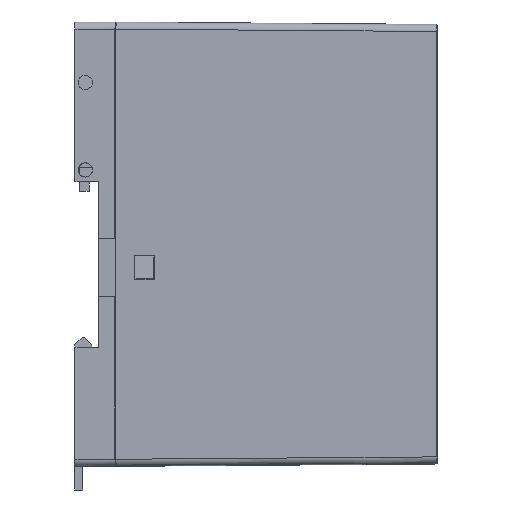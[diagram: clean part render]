
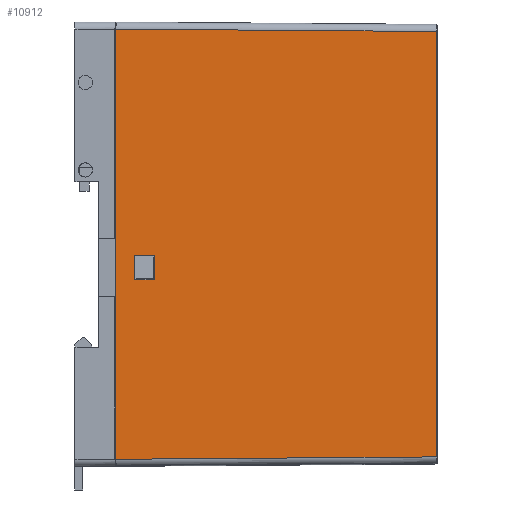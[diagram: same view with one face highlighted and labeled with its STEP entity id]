
A CAD part, front view. The second image highlights one B-rep face of the part: STEP entity #10912.
In plain terms, the highlighted planar face has unit normal (0.007, -1, 0).
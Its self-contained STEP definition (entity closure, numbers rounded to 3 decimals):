
#216=FACE_BOUND('',#1273,.T.);
#641=FACE_OUTER_BOUND('',#1272,.T.);
#1272=EDGE_LOOP('',(#7932,#7933,#7934,#7935));
#1273=EDGE_LOOP('',(#7936,#7937,#7938,#7939));
#2009=LINE('',#15734,#3286);
#2011=LINE('',#15738,#3288);
#2015=LINE('',#15744,#3292);
#2112=LINE('',#15992,#3389);
#2122=LINE('',#16032,#3399);
#2125=LINE('',#16047,#3402);
#2134=LINE('',#16115,#3411);
#2233=LINE('',#16380,#3510);
#3286=VECTOR('',#12693,10.);
#3288=VECTOR('',#12697,10.);
#3292=VECTOR('',#12703,10.);
#3389=VECTOR('',#12936,10.);
#3399=VECTOR('',#12970,10.);
#3402=VECTOR('',#12985,10.);
#3411=VECTOR('',#13036,10.);
#3510=VECTOR('',#13195,10.);
#4493=VERTEX_POINT('',#15731);
#4494=VERTEX_POINT('',#15733);
#4495=VERTEX_POINT('',#15737);
#4496=VERTEX_POINT('',#15742);
#4578=VERTEX_POINT('',#15989);
#4579=VERTEX_POINT('',#15991);
#4596=VERTEX_POINT('',#16029);
#4603=VERTEX_POINT('',#16044);
#5541=EDGE_CURVE('',#4494,#4493,#2009,.F.);
#5543=EDGE_CURVE('',#4495,#4494,#2011,.F.);
#5547=EDGE_CURVE('',#4493,#4496,#2015,.F.);
#5668=EDGE_CURVE('',#4579,#4578,#2112,.T.);
#5688=EDGE_CURVE('',#4596,#4578,#2122,.T.);
#5696=EDGE_CURVE('',#4579,#4603,#2125,.T.);
#5720=EDGE_CURVE('',#4603,#4596,#2134,.T.);
#5831=EDGE_CURVE('',#4496,#4495,#2233,.F.);
#7932=ORIENTED_EDGE('',*,*,#5720,.F.);
#7933=ORIENTED_EDGE('',*,*,#5696,.F.);
#7934=ORIENTED_EDGE('',*,*,#5668,.T.);
#7935=ORIENTED_EDGE('',*,*,#5688,.F.);
#7936=ORIENTED_EDGE('',*,*,#5541,.T.);
#7937=ORIENTED_EDGE('',*,*,#5547,.T.);
#7938=ORIENTED_EDGE('',*,*,#5831,.T.);
#7939=ORIENTED_EDGE('',*,*,#5543,.T.);
#9809=PLANE('',#11606);
#10912=ADVANCED_FACE('',(#641,#216),#9809,.T.);
#11606=AXIS2_PLACEMENT_3D('',#16481,#13359,#13360);
#12693=DIRECTION('',(-1.,-0.007,0.));
#12697=DIRECTION('',(0.,0.,-1.));
#12703=DIRECTION('',(0.,0.,1.));
#12936=DIRECTION('',(0.,0.,-1.));
#12970=DIRECTION('',(-1.,-0.007,-0.007));
#12985=DIRECTION('',(1.,0.007,-0.007));
#13036=DIRECTION('',(0.,0.,-1.));
#13195=DIRECTION('',(1.,0.007,0.));
#13359=DIRECTION('center_axis',(0.007,-1.,
0.));
#13360=DIRECTION('ref_axis',(1.,0.007,0.));
#15731=CARTESIAN_POINT('',(14.908,-15.837,18.16));
#15733=CARTESIAN_POINT('',(10.708,-15.868,18.16));
#15734=CARTESIAN_POINT('',(44.806,-15.615,18.16));
#15737=CARTESIAN_POINT('',(10.708,-15.868,12.96));
#15738=CARTESIAN_POINT('',(10.708,-15.868,42.81));
#15742=CARTESIAN_POINT('',(14.908,-15.837,12.96));
#15744=CARTESIAN_POINT('',(14.908,-15.837,40.21));
#15989=CARTESIAN_POINT('',(6.708,-15.898,-25.04));
#15991=CARTESIAN_POINT('',(6.708,-15.898,65.96));
#15992=CARTESIAN_POINT('',(6.708,-15.898,-26.54));
#16029=CARTESIAN_POINT('',(74.509,-15.395,-24.537));
#16032=CARTESIAN_POINT('',(75.039,-15.391,-24.534));
#16044=CARTESIAN_POINT('',(74.509,-15.395,65.457));
#16047=CARTESIAN_POINT('',(74.821,-15.392,65.454));
#16115=CARTESIAN_POINT('',(74.509,-15.395,43.96));
#16380=CARTESIAN_POINT('',(42.707,-15.631,12.96));
#16481=CARTESIAN_POINT('Origin',(74.706,-15.393,67.46));
